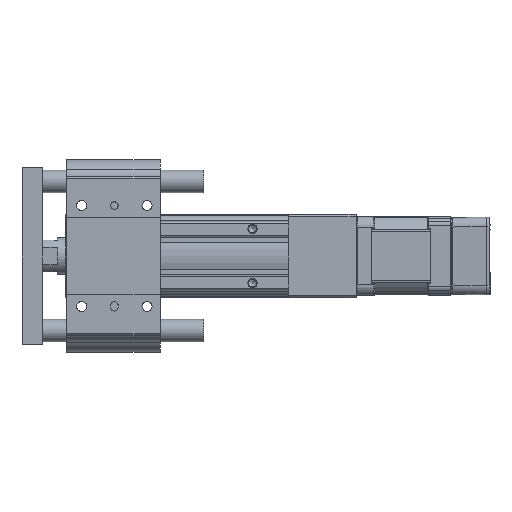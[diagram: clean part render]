
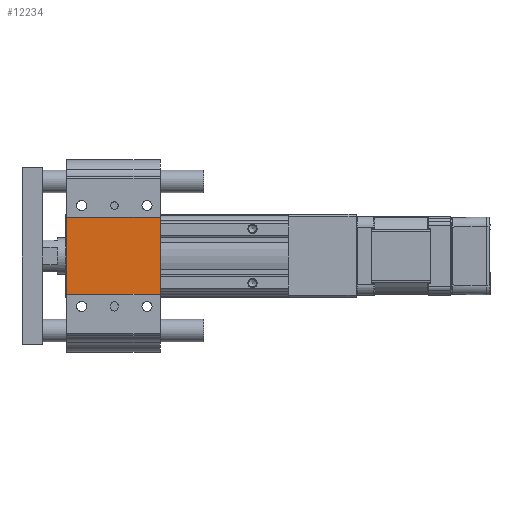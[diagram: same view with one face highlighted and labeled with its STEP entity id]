
A CAD part, front view. The second image highlights one B-rep face of the part: STEP entity #12234.
In plain terms, the highlighted planar face has unit normal (0, -1, 0).
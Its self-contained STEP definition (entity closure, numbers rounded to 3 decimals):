
#95 = CARTESIAN_POINT ( 'NONE',  ( 20.5, -30.5, -0.5 ) ) ;
#654 = LINE ( 'NONE', #35653, #12237 ) ;
#1309 = VERTEX_POINT ( 'NONE', #95 ) ;
#1692 = ORIENTED_EDGE ( 'NONE', *, *, #4838, .T. ) ;
#2106 = VERTEX_POINT ( 'NONE', #29045 ) ;
#2375 = VECTOR ( 'NONE', #10771, 1000. ) ;
#3801 = DIRECTION ( 'NONE',  ( 0., 0., 1. ) ) ;
#4128 = AXIS2_PLACEMENT_3D ( 'NONE', #15401, #31248, #21470 ) ;
#4838 = EDGE_CURVE ( 'NONE', #2106, #37393, #8501, .T. ) ;
#5420 = VECTOR ( 'NONE', #39832, 1000. ) ;
#8501 = LINE ( 'NONE', #37646, #37613 ) ;
#10771 = DIRECTION ( 'NONE',  ( 1., 0., 0. ) ) ;
#11841 = ORIENTED_EDGE ( 'NONE', *, *, #21446, .F. ) ;
#11971 = EDGE_CURVE ( 'NONE', #37393, #1309, #40260, .T. ) ;
#12234 = ADVANCED_FACE ( 'NONE', ( #37297 ), #31450, .T. ) ;
#12237 = VECTOR ( 'NONE', #3801, 1000. ) ;
#13164 = CARTESIAN_POINT ( 'NONE',  ( -20.5, -30.5, -0.5 ) ) ;
#14665 = ORIENTED_EDGE ( 'NONE', *, *, #11971, .T. ) ;
#15050 = ORIENTED_EDGE ( 'NONE', *, *, #22677, .F. ) ;
#15161 = EDGE_LOOP ( 'NONE', ( #15050, #11841, #1692, #14665 ) ) ;
#15401 = CARTESIAN_POINT ( 'NONE',  ( -20.5, -30.5, -102.5 ) ) ;
#16224 = CARTESIAN_POINT ( 'NONE',  ( 20.5, -30.5, -50.5 ) ) ;
#16242 = VERTEX_POINT ( 'NONE', #13164 ) ;
#16815 = LINE ( 'NONE', #32491, #2375 ) ;
#21137 = CARTESIAN_POINT ( 'NONE',  ( 20.5, -30.5, -102.5 ) ) ;
#21446 = EDGE_CURVE ( 'NONE', #2106, #16242, #654, .T. ) ;
#21470 = DIRECTION ( 'NONE',  ( 0., 0., -1. ) ) ;
#22677 = EDGE_CURVE ( 'NONE', #16242, #1309, #16815, .T. ) ;
#27661 = DIRECTION ( 'NONE',  ( 1., 0., 0. ) ) ;
#29045 = CARTESIAN_POINT ( 'NONE',  ( -20.5, -30.5, -50.5 ) ) ;
#31248 = DIRECTION ( 'NONE',  ( 0., -1., 0. ) ) ;
#31450 = PLANE ( 'NONE',  #4128 ) ;
#32491 = CARTESIAN_POINT ( 'NONE',  ( -20.5, -30.5, -0.5 ) ) ;
#35653 = CARTESIAN_POINT ( 'NONE',  ( -20.5, -30.5, -102.5 ) ) ;
#37297 = FACE_OUTER_BOUND ( 'NONE', #15161, .T. ) ;
#37393 = VERTEX_POINT ( 'NONE', #16224 ) ;
#37613 = VECTOR ( 'NONE', #27661, 1000. ) ;
#37646 = CARTESIAN_POINT ( 'NONE',  ( -20.5, -30.5, -50.5 ) ) ;
#39832 = DIRECTION ( 'NONE',  ( 0., 0., 1. ) ) ;
#40260 = LINE ( 'NONE', #21137, #5420 ) ;
